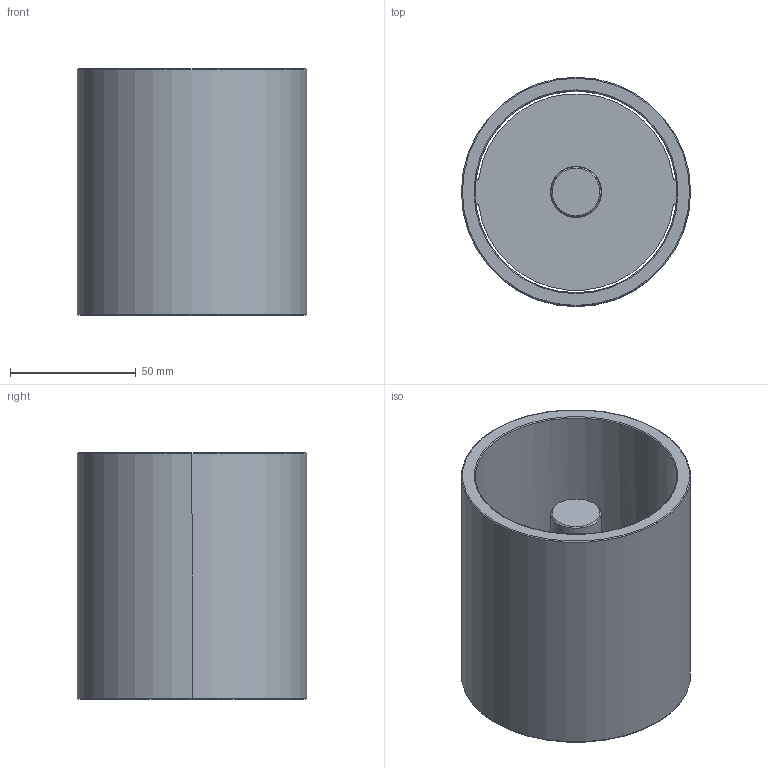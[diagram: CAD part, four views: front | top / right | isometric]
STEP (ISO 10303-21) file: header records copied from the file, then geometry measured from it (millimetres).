
FILE_DESCRIPTION((''),'2;1');
FILE_NAME('C11_080_098.stp','2009-01-12T09:47:13',(''),(''),'Mechanical Desktop 2009','Mechanical Desktop 2009',', , ');
FILE_SCHEMA(('CONFIG_CONTROL_DESIGN'));
Length unit declared in the file: millimetre
Products named in the file (2): Product; blmdl1
Assembly tree (1 placements, depth 2):
  Product
    blmdl1
Bounding box: 91.25 x 91.25 x 98 mm (x, y, z)
Volume: 172863.8 mm3; surface area: 71021.1 mm2
Topology: 3 solids, 3 shells, 44 faces, 110 edges, 74 vertices
Faces by surface type: cylinder 16, plane 16, torus 10, cone 2
Entity records: 1507 total; most frequent: CARTESIAN_POINT 274, DIRECTION 266, ORIENTED_EDGE 220, AXIS2_PLACEMENT_3D 114, EDGE_CURVE 110, VERTEX_POINT 74, CIRCLE 68, EDGE_LOOP 50
